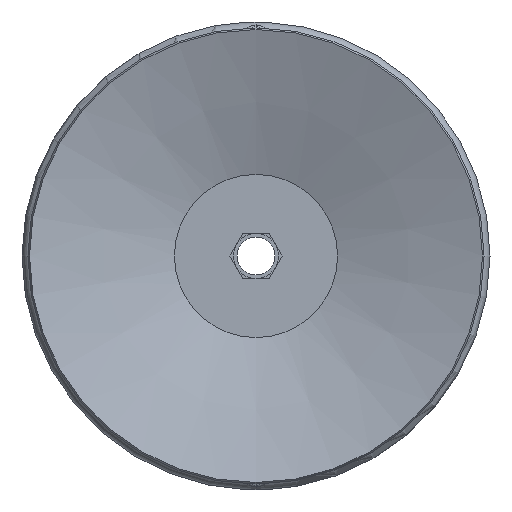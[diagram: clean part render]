
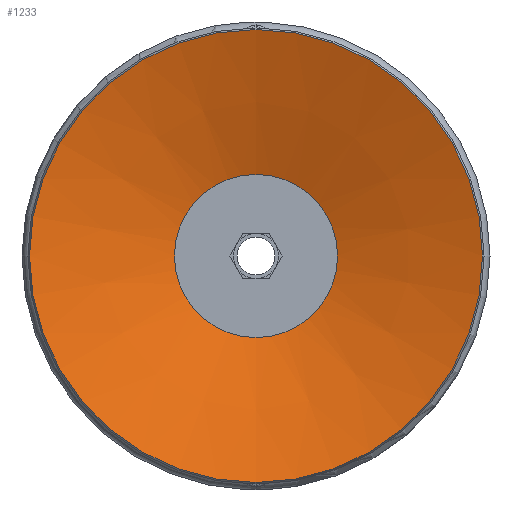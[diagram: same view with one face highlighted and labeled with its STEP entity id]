
A CAD part, front view. The second image highlights one B-rep face of the part: STEP entity #1233.
In plain terms, the highlighted conical face has half-angle 71.075 degrees and reference radius 15 mm.
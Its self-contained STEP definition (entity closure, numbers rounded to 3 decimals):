
#1233=ADVANCED_FACE('',(#3069,#3070),#3071,.F.);
#3069=FACE_BOUND('',#5803,.T.);
#3070=FACE_OUTER_BOUND('',#5804,.T.);
#3071=CONICAL_SURFACE('',#5805,15.0,1.24);
#5803=EDGE_LOOP('',(#9335));
#5804=EDGE_LOOP('',(#9336));
#5805=AXIS2_PLACEMENT_3D('',#9337,#9338,#9339);
#9335=ORIENTED_EDGE('',*,*,#16438,.T.);
#9336=ORIENTED_EDGE('',*,*,#16439,.T.);
#9337=CARTESIAN_POINT('',(0.,0.,0.0));
#9338=DIRECTION('',(0.0,0.,-1.0));
#9339=DIRECTION('',(0.0,1.0,0.));
#16438=EDGE_CURVE('',#20169,#20169,#20170,.T.);
#16439=EDGE_CURVE('',#20171,#20171,#20172,.T.);
#20169=VERTEX_POINT('',#26752);
#20170=CIRCLE('',#26753,5.4);
#20171=VERTEX_POINT('',#26754);
#20172=CIRCLE('',#26755,15.0);
#26752=CARTESIAN_POINT('',(-5.4,0.,3.291));
#26753=AXIS2_PLACEMENT_3D('',#32442,#32443,#32444);
#26754=CARTESIAN_POINT('',(0.,15.0,0.));
#26755=AXIS2_PLACEMENT_3D('',#32445,#32446,#32447);
#32442=CARTESIAN_POINT('',(0.,0.,3.291));
#32443=DIRECTION('',(0.,0.0,1.0));
#32444=DIRECTION('',(-1.0,0.0,0.));
#32445=CARTESIAN_POINT('',(0.,0.,0.0));
#32446=DIRECTION('',(0.0,0.,-1.0));
#32447=DIRECTION('',(0.0,1.0,0.));
